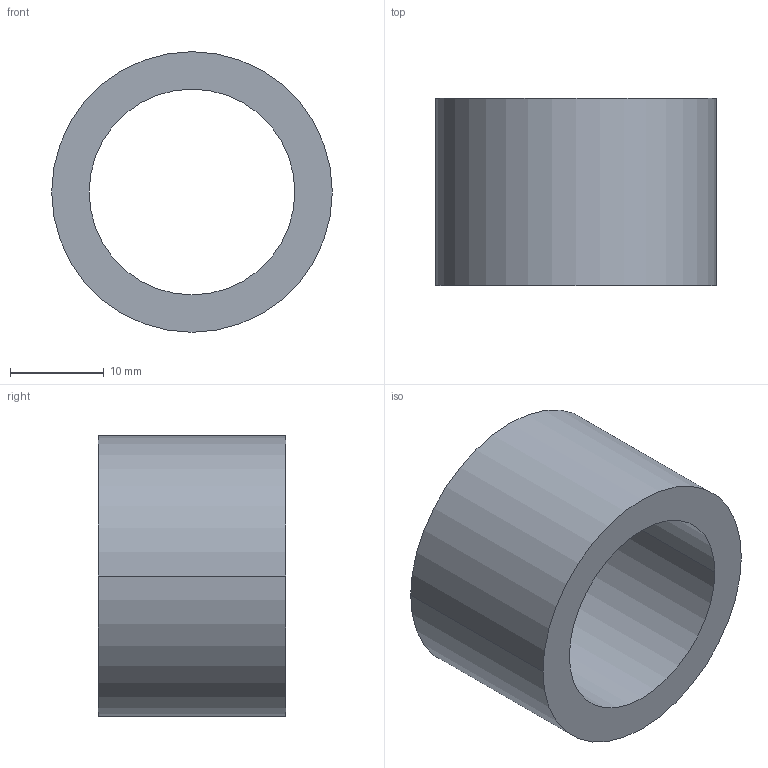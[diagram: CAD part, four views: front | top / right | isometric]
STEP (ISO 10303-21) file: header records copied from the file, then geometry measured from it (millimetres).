
FILE_DESCRIPTION (( 'STEP AP203' ), '1' );
FILE_NAME ('30800.WPP30H22.0.step', '2019-01-23T22:47:53', ( '' ), ( '' ), 'SwSTEP 2.0', 'SolidWorks 2017', '' );
FILE_SCHEMA (( 'CONFIG_CONTROL_DESIGN' ));
Length unit declared in the file: millimetre
Products named in the file (1): 30800.WPP30H22.0
Bounding box: 30 x 20 x 30 mm (x, y, z)
Volume: 6392.9 mm3; surface area: 3835.7 mm2
Topology: 1 solids, 1 shells, 8 faces, 16 edges, 10 vertices
Faces by surface type: cylinder 4, torus 2, plane 2
Entity records: 297 total; most frequent: DIRECTION 46, CARTESIAN_POINT 35, ORIENTED_EDGE 32, AXIS2_PLACEMENT_3D 21, EDGE_CURVE 16, CIRCLE 12, EDGE_LOOP 10, VERTEX_POINT 10
